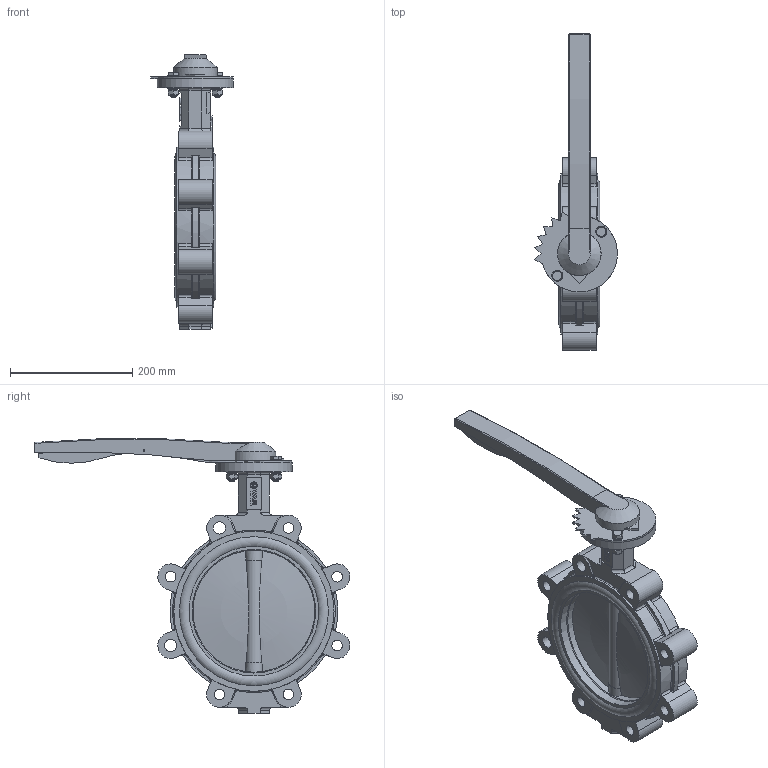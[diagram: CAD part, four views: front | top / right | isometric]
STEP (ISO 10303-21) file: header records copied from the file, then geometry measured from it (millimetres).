
FILE_DESCRIPTION(('STEP AP242'), '1');
FILE_NAME('Ïîâîðîòíûé çàòâîð ïîä ýëåêòðîïðèâîä', '', ('UNSPECIFIED'), ('UNSPECIFIED'), 'C3D Converter', 'C3D Toolkit', '');
FILE_SCHEMA(('AP242_MANAGED_MODEL_BASED_3D_ENGINEERING_MIM_LF { 1 0 10303 442 1 1 4 }'));
Length unit declared in the file: millimetre
Products named in the file (14): П
Assembly tree (20 placements, depth 3):
  (unnamed)
    (unnamed)
    П  x2
    (unnamed)
    (unnamed)
    (unnamed)
    (unnamed)
      (unnamed)
      (unnamed)
      (unnamed)
    (unnamed)  x2
    (unnamed)  x4
    (unnamed)  x2
    (unnamed)  x2
Bounding box: 135.83 x 517.25 x 449.28 mm (x, y, z)
Volume: 3300519 mm3; surface area: 661368.4 mm2
Topology: 19 solids, 19 shells, 732 faces, 1833 edges, 1174 vertices
Faces by surface type: plane 322, cylinder 187, extrusion 135, torus 62, cone 18, sphere 6, bspline 2
Full cylindrical faces by diameter (mm): 3 x4, 6 x2, 8.376 x2, 10 x2, 11 x4, 11.421 x1, 12 x6, 17.294 x6, 18 x4, 20 x2, 22 x5, 24.2 x1, 28.975 x4, 31.113 x5, 33.941 x1, 125 x1, 200 x1, 202.5 x2, 212.5 x2, 228.25 x4, 244 x4, 262.333 x2
Entity records: 28320 total; most frequent: CARTESIAN_POINT 9658, ORIENTED_EDGE 3330, DIRECTION 2980, EDGE_CURVE 1665, VERTEX_POINT 1114, AXIS2_PLACEMENT_3D 1005, VECTOR 970, EDGE_LOOP 845
